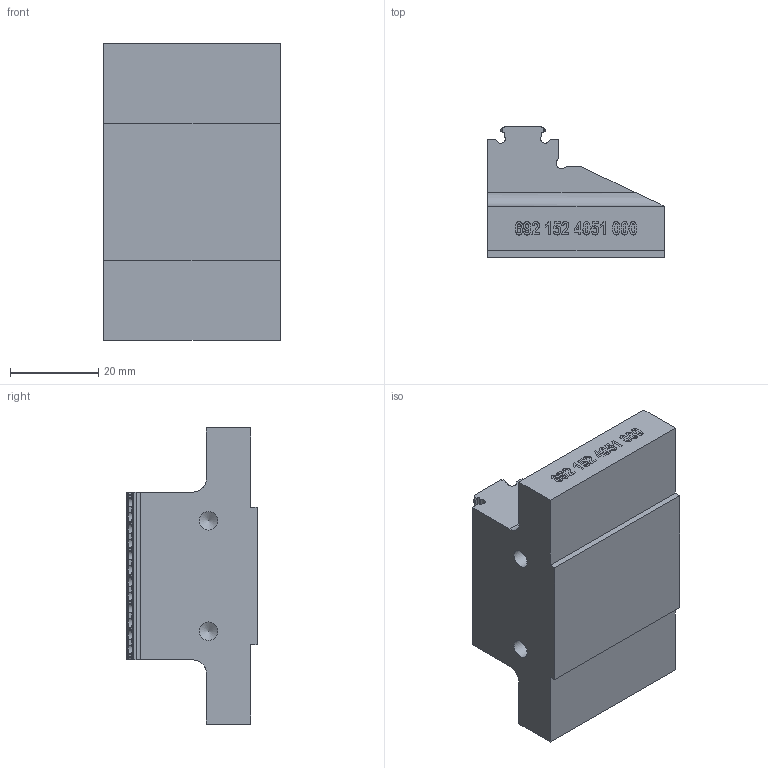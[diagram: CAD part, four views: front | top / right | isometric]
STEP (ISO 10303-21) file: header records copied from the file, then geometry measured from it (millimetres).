
FILE_DESCRIPTION (( 'STEP AP214' ), '1' );
FILE_NAME ('3D-6921524051000.STEP', '2023-12-04T09:03:36', ( '' ), ( '' ), 'SwSTEP 2.0', 'SolidWorks 2021', '' );
FILE_SCHEMA (( 'AUTOMOTIVE_DESIGN' ));
Length unit declared in the file: millimetre
Products named in the file (1): 3D-6921524051000
Bounding box: 40 x 29.5 x 67 mm (x, y, z)
Volume: 43340.8 mm3; surface area: 10025.5 mm2
Topology: 1 solids, 1 shells, 506 faces, 1352 edges, 900 vertices
Faces by surface type: plane 257, bspline 180, cylinder 67, cone 2
Full cylindrical faces by diameter (mm): 4.2 x2
Entity records: 25932 total; most frequent: CARTESIAN_POINT 14745, ORIENTED_EDGE 2692, DIRECTION 1546, EDGE_CURVE 1346, VERTEX_POINT 898, LINE 852, VECTOR 852, EDGE_LOOP 562
